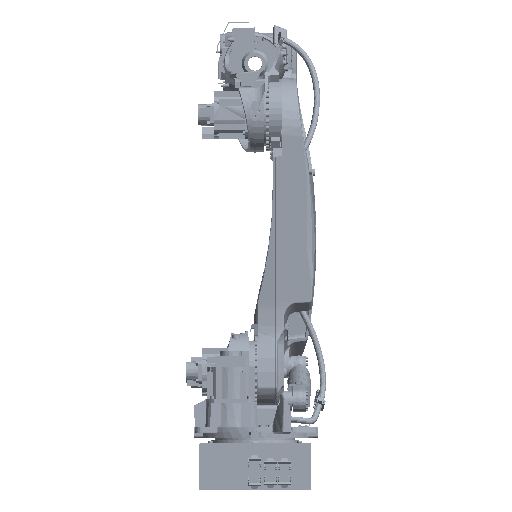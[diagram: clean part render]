
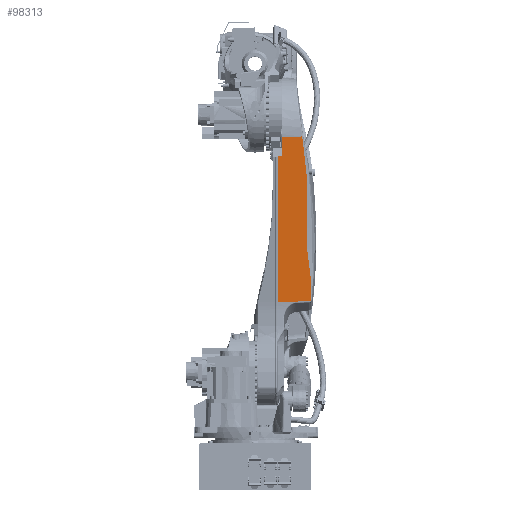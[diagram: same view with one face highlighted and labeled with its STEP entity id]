
A CAD part, front view. The second image highlights one B-rep face of the part: STEP entity #98313.
In plain terms, the highlighted planar face has unit normal (0.087, -0.991, -0.104).
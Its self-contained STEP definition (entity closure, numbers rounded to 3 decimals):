
#95681=CARTESIAN_POINT('Vertex',(212.656,-205.674,1061.971)) ;
#96157=CARTESIAN_POINT('Control Point',(252.686,-125.079,328.667)) ;
#96158=CARTESIAN_POINT('Control Point',(252.743,-125.157,329.453)) ;
#96159=CARTESIAN_POINT('Control Point',(252.8,-125.235,330.246)) ;
#96160=CARTESIAN_POINT('Control Point',(252.857,-125.313,331.039)) ;
#96161=CARTESIAN_POINT('Control Point',(253.02,-125.543,333.364)) ;
#96162=CARTESIAN_POINT('Control Point',(253.175,-125.774,335.688)) ;
#96163=CARTESIAN_POINT('Control Point',(253.274,-125.926,337.218)) ;
#96164=CARTESIAN_POINT('Control Point',(253.517,-126.315,341.123)) ;
#96165=CARTESIAN_POINT('Control Point',(253.732,-126.706,345.026)) ;
#96166=CARTESIAN_POINT('Control Point',(253.852,-126.945,347.399)) ;
#96167=CARTESIAN_POINT('Control Point',(254.068,-127.425,352.145)) ;
#96168=CARTESIAN_POINT('Control Point',(254.234,-127.909,356.888)) ;
#96169=CARTESIAN_POINT('Control Point',(254.304,-128.152,359.259)) ;
#96170=CARTESIAN_POINT('Control Point',(254.528,-129.123,368.689)) ;
#96171=CARTESIAN_POINT('Control Point',(254.528,-130.113,378.107)) ;
#96172=CARTESIAN_POINT('Control Point',(254.393,-130.865,385.15)) ;
#96173=CARTESIAN_POINT('Control Point',(253.653,-132.973,404.585)) ;
#96174=CARTESIAN_POINT('Control Point',(251.956,-135.154,423.917)) ;
#96175=CARTESIAN_POINT('Control Point',(250.528,-136.572,436.213)) ;
#96176=CARTESIAN_POINT('Control Point',(247.317,-139.342,459.879)) ;
#96177=CARTESIAN_POINT('Control Point',(243.662,-142.135,483.39)) ;
#96178=CARTESIAN_POINT('Control Point',(241.886,-143.483,494.731)) ;
#96179=CARTESIAN_POINT('Control Point',(237.76,-146.764,522.49)) ;
#96180=CARTESIAN_POINT('Control Point',(234.632,-149.953,550.219)) ;
#96181=CARTESIAN_POINT('Control Point',(233.357,-151.793,566.653)) ;
#96182=CARTESIAN_POINT('Control Point',(232.072,-155.543,601.257)) ;
#96183=CARTESIAN_POINT('Control Point',(232.209,-159.165,635.838)) ;
#96184=CARTESIAN_POINT('Control Point',(232.567,-161.042,653.992)) ;
#96185=CARTESIAN_POINT('Control Point',(233.625,-164.752,690.177)) ;
#96186=CARTESIAN_POINT('Control Point',(234.971,-168.443,726.418)) ;
#96187=CARTESIAN_POINT('Control Point',(235.615,-170.286,744.493)) ;
#96188=CARTESIAN_POINT('Control Point',(236.844,-174.589,786.464)) ;
#96189=CARTESIAN_POINT('Control Point',(237.082,-178.992,828.555)) ;
#96190=CARTESIAN_POINT('Control Point',(236.735,-181.543,852.539)) ;
#96191=CARTESIAN_POINT('Control Point',(235.406,-185.233,886.535)) ;
#96192=CARTESIAN_POINT('Control Point',(232.815,-189.032,920.506)) ;
#96193=CARTESIAN_POINT('Control Point',(231.941,-190.159,930.503)) ;
#96194=CARTESIAN_POINT('Control Point',(229.967,-192.433,950.486)) ;
#96195=CARTESIAN_POINT('Control Point',(227.553,-194.743,970.44)) ;
#96196=CARTESIAN_POINT('Control Point',(226.238,-195.906,980.409)) ;
#96197=CARTESIAN_POINT('Control Point',(223.381,-198.267,1000.481)) ;
#96198=CARTESIAN_POINT('Control Point',(220.138,-200.658,1020.514)) ;
#96199=CARTESIAN_POINT('Control Point',(218.416,-201.87,1030.6)) ;
#96200=CARTESIAN_POINT('Control Point',(216.214,-203.359,1042.929)) ;
#96201=CARTESIAN_POINT('Control Point',(213.922,-204.856,1055.25)) ;
#96202=CARTESIAN_POINT('Control Point',(213.507,-205.126,1057.468)) ;
#96203=CARTESIAN_POINT('Control Point',(213.083,-205.4,1059.72)) ;
#96204=CARTESIAN_POINT('Control Point',(212.656,-205.674,1061.971)) ;
#96205=CARTESIAN_POINT('Vertex',(252.686,-125.079,328.667)) ;
#98240=CARTESIAN_POINT('Vertex',(121.,-213.649,1061.133)) ;
#98243=CARTESIAN_POINT('Line Origine',(-496572.593,-43430.656,-3481.158)) ;
#98257=CARTESIAN_POINT('Axis2P3D Location',(96.,-176.782,689.44)) ;
#98262=CARTESIAN_POINT('Line Origine',(104.505,-171.399,645.348)) ;
#98266=CARTESIAN_POINT('Vertex',(104.505,-136.999,318.054)) ;
#98268=CARTESIAN_POINT('Vertex',(104.505,-205.799,972.643)) ;
#98271=CARTESIAN_POINT('Line Origine',(176.477,-130.737,318.712)) ;
#98275=CARTESIAN_POINT('Vertex',(248.449,-124.475,319.37)) ;
#98279=CARTESIAN_POINT('Control Point',(248.449,-124.475,319.37)) ;
#98280=CARTESIAN_POINT('Control Point',(249.187,-124.474,319.98)) ;
#98281=CARTESIAN_POINT('Control Point',(249.835,-124.491,320.683)) ;
#98282=CARTESIAN_POINT('Control Point',(250.391,-124.522,321.443)) ;
#98283=CARTESIAN_POINT('Control Point',(251.345,-124.608,323.064)) ;
#98284=CARTESIAN_POINT('Control Point',(252.005,-124.737,324.844)) ;
#98285=CARTESIAN_POINT('Control Point',(252.263,-124.811,325.759)) ;
#98286=CARTESIAN_POINT('Control Point',(252.496,-124.909,326.894)) ;
#98287=CARTESIAN_POINT('Control Point',(252.631,-125.018,328.044)) ;
#98288=CARTESIAN_POINT('Control Point',(252.652,-125.038,328.251)) ;
#98289=CARTESIAN_POINT('Control Point',(252.67,-125.058,328.459)) ;
#98290=CARTESIAN_POINT('Control Point',(252.686,-125.079,328.667)) ;
#98292=CARTESIAN_POINT('Line Origine',(121.,-209.074,1017.607)) ;
#98296=CARTESIAN_POINT('Vertex',(121.,-204.499,974.081)) ;
#98299=CARTESIAN_POINT('Line Origine',(112.752,-205.149,973.362)) ;
#98244=DIRECTION('Vector Direction',(-0.996,-0.087,-0.009)) ;
#98258=DIRECTION('Axis2P3D Direction',(-0.087,0.991,0.104)) ;
#98259=DIRECTION('Axis2P3D XDirection',(0.,0.105,-0.995)) ;
#98263=DIRECTION('Vector Direction',(0.,0.105,-0.995)) ;
#98272=DIRECTION('Vector Direction',(-0.996,-0.087,-0.009)) ;
#98293=DIRECTION('Vector Direction',(0.,0.105,-0.995)) ;
#98300=DIRECTION('Vector Direction',(-0.993,-0.078,-0.087)) ;
#98260=AXIS2_PLACEMENT_3D('Plane Axis2P3D',#98257,#98258,#98259) ;
#98305=ORIENTED_EDGE('',*,*,#98270,.F.) ;
#98306=ORIENTED_EDGE('',*,*,#98277,.T.) ;
#98307=ORIENTED_EDGE('',*,*,#98291,.F.) ;
#98308=ORIENTED_EDGE('',*,*,#96207,.F.) ;
#98309=ORIENTED_EDGE('',*,*,#98247,.F.) ;
#98310=ORIENTED_EDGE('',*,*,#98298,.F.) ;
#98311=ORIENTED_EDGE('',*,*,#98303,.T.) ;
#98245=VECTOR('Line Direction',#98244,1.) ;
#98264=VECTOR('Line Direction',#98263,1.) ;
#98273=VECTOR('Line Direction',#98272,1.) ;
#98294=VECTOR('Line Direction',#98293,1.) ;
#98301=VECTOR('Line Direction',#98300,1.) ;
#98313=ADVANCED_FACE('J2',(#98312),#98261,.F.) ;
#96156=B_SPLINE_CURVE_WITH_KNOTS('',5,(#96157,#96158,#96159,#96160,#96161,#96162,#96163,#96164,#96165,#96166,#96167,#96168,#96169,#96170,#96171,#96172,#96173,#96174,#96175,#96176,#96177,#96178,#96179,#96180,#96181,#96182,#96183,#96184,#96185,#96186,#96187,#96188,#96189,#96190,#96191,#96192,#96193,#96194,#96195,#96196,#96197,#96198,#96199,#96200,#96201,#96202,#96203,#96204),.UNSPECIFIED.,.F.,.U.,(6,3,3,3,3,3,3,3,3,3,3,3,3,3,3,6),(88.771,92.695,100.259,111.998,123.737,158.704,220.39,278.055,361.803,454.333,546.179,667.336,717.874,768.411,819.745,831.227),.UNSPECIFIED.) ;
#98278=B_SPLINE_CURVE_WITH_KNOTS('',5,(#98279,#98280,#98281,#98282,#98283,#98284,#98285,#98286,#98287,#98288,#98289,#98290),.UNSPECIFIED.,.F.,.U.,(6,3,3,6),(0.,6.755,13.427,14.894),.UNSPECIFIED.) ;
#96207=EDGE_CURVE('',#95682,#96206,#96156,.F.) ;
#98247=EDGE_CURVE('',#98241,#95682,#98246,.F.) ;
#98270=EDGE_CURVE('',#98267,#98269,#98265,.F.) ;
#98277=EDGE_CURVE('',#98267,#98276,#98274,.F.) ;
#98291=EDGE_CURVE('',#96206,#98276,#98278,.F.) ;
#98298=EDGE_CURVE('',#98297,#98241,#98295,.F.) ;
#98303=EDGE_CURVE('',#98297,#98269,#98302,.T.) ;
#98304=EDGE_LOOP('',(#98305,#98306,#98307,#98308,#98309,#98310,#98311)) ;
#98312=FACE_OUTER_BOUND('',#98304,.T.) ;
#98246=LINE('Line',#98243,#98245) ;
#98265=LINE('Line',#98262,#98264) ;
#98274=LINE('Line',#98271,#98273) ;
#98295=LINE('Line',#98292,#98294) ;
#98302=LINE('Line',#98299,#98301) ;
#98261=PLANE('',#98260) ;
#95682=VERTEX_POINT('',#95681) ;
#96206=VERTEX_POINT('',#96205) ;
#98241=VERTEX_POINT('',#98240) ;
#98267=VERTEX_POINT('',#98266) ;
#98269=VERTEX_POINT('',#98268) ;
#98276=VERTEX_POINT('',#98275) ;
#98297=VERTEX_POINT('',#98296) ;
